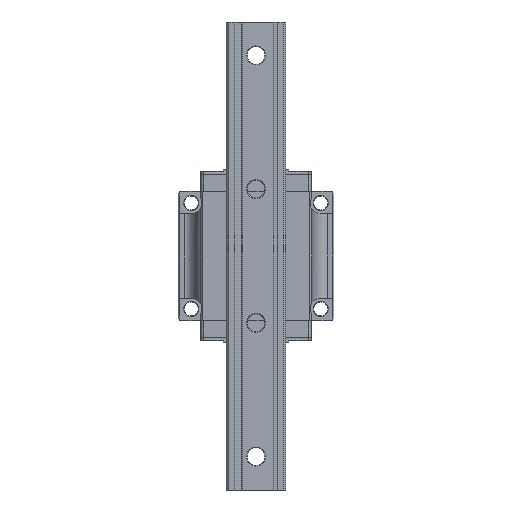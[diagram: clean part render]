
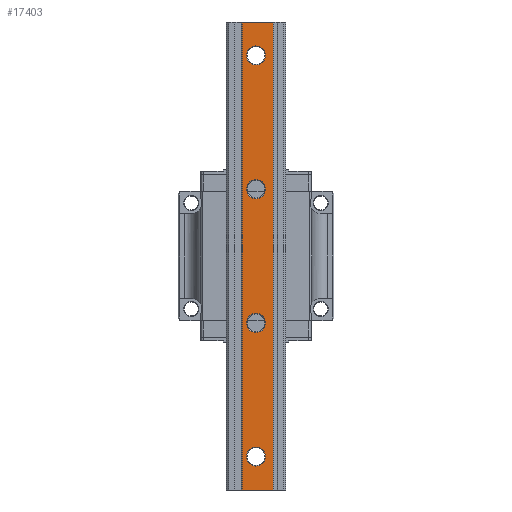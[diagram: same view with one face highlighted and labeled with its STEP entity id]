
A CAD part, front view. The second image highlights one B-rep face of the part: STEP entity #17403.
In plain terms, the highlighted planar face has unit normal (0, -1, 0).
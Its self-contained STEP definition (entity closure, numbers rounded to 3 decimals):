
#118 = CARTESIAN_POINT ( 'NONE',  ( 0., -38., -60. ) ) ;
#350 = LINE ( 'NONE', #11294, #13448 ) ;
#363 = AXIS2_PLACEMENT_3D ( 'NONE', #19927, #943, #7330 ) ;
#580 = CARTESIAN_POINT ( 'NONE',  ( 0., -38., -188.5 ) ) ;
#619 = CARTESIAN_POINT ( 'NONE',  ( 0., -38., 68.5 ) ) ;
#943 = DIRECTION ( 'NONE',  ( 0., 1., 0. ) ) ;
#1154 = FACE_BOUND ( 'NONE', #7789, .T. ) ;
#1313 = CARTESIAN_POINT ( 'NONE',  ( 15.5, -38., 210. ) ) ;
#1427 = CARTESIAN_POINT ( 'NONE',  ( -12.5, -38., -210. ) ) ;
#1584 = CARTESIAN_POINT ( 'NONE',  ( 0., -38., 51.5 ) ) ;
#1645 = AXIS2_PLACEMENT_3D ( 'NONE', #12241, #9356, #12664 ) ;
#1647 = FACE_BOUND ( 'NONE', #12370, .T. ) ;
#1792 = CARTESIAN_POINT ( 'NONE',  ( 15.5, -38., 210. ) ) ;
#2458 = VECTOR ( 'NONE', #3792, 1000. ) ;
#2964 = DIRECTION ( 'NONE',  ( 0., 0., 1. ) ) ;
#3783 = CIRCLE ( 'NONE', #13754, 8.5 ) ;
#3792 = DIRECTION ( 'NONE',  ( 1., 0., 0. ) ) ;
#3841 = CIRCLE ( 'NONE', #18144, 8.5 ) ;
#3908 = EDGE_CURVE ( 'NONE', #16467, #16677, #9459, .T. ) ;
#4021 = VERTEX_POINT ( 'NONE', #5179 ) ;
#4087 = DIRECTION ( 'NONE',  ( 0., 1., 0. ) ) ;
#4272 = ORIENTED_EDGE ( 'NONE', *, *, #14194, .T. ) ;
#4338 = ORIENTED_EDGE ( 'NONE', *, *, #19636, .T. ) ;
#4401 = VERTEX_POINT ( 'NONE', #10236 ) ;
#4439 = DIRECTION ( 'NONE',  ( 0., 0., 1. ) ) ;
#4541 = DIRECTION ( 'NONE',  ( 0., 1., 0. ) ) ;
#5179 = CARTESIAN_POINT ( 'NONE',  ( 0., -38., -51.5 ) ) ;
#5206 = ORIENTED_EDGE ( 'NONE', *, *, #7374, .T. ) ;
#5320 = CARTESIAN_POINT ( 'NONE',  ( 0., -38., -60. ) ) ;
#5480 = EDGE_CURVE ( 'NONE', #6593, #9186, #3783, .T. ) ;
#5567 = CIRCLE ( 'NONE', #12543, 8.5 ) ;
#5656 = ORIENTED_EDGE ( 'NONE', *, *, #3908, .F. ) ;
#5769 = FACE_OUTER_BOUND ( 'NONE', #7710, .T. ) ;
#5922 = CARTESIAN_POINT ( 'NONE',  ( 0., -38., -180. ) ) ;
#5993 = CARTESIAN_POINT ( 'NONE',  ( 0., -38., -68.5 ) ) ;
#6533 = CARTESIAN_POINT ( 'NONE',  ( 0., -38., 180. ) ) ;
#6593 = VERTEX_POINT ( 'NONE', #619 ) ;
#6640 = CIRCLE ( 'NONE', #1645, 8.5 ) ;
#6946 = ORIENTED_EDGE ( 'NONE', *, *, #10302, .T. ) ;
#7016 = CIRCLE ( 'NONE', #14980, 8.5 ) ;
#7330 = DIRECTION ( 'NONE',  ( 0., 0., 1. ) ) ;
#7374 = EDGE_CURVE ( 'NONE', #4401, #8319, #16727, .T. ) ;
#7405 = AXIS2_PLACEMENT_3D ( 'NONE', #5922, #9147, #15482 ) ;
#7636 = DIRECTION ( 'NONE',  ( 0., 0., 1. ) ) ;
#7710 = EDGE_LOOP ( 'NONE', ( #10969, #5656, #18474, #5206 ) ) ;
#7789 = EDGE_LOOP ( 'NONE', ( #12951, #7888 ) ) ;
#7888 = ORIENTED_EDGE ( 'NONE', *, *, #5480, .T. ) ;
#8029 = FACE_BOUND ( 'NONE', #12201, .T. ) ;
#8319 = VERTEX_POINT ( 'NONE', #1427 ) ;
#8549 = DIRECTION ( 'NONE',  ( 0., 0., 1. ) ) ;
#8646 = DIRECTION ( 'NONE',  ( 0., 1., 0. ) ) ;
#8676 = CARTESIAN_POINT ( 'NONE',  ( 15.5, -38., -210. ) ) ;
#8700 = CIRCLE ( 'NONE', #363, 8.5 ) ;
#8887 = CARTESIAN_POINT ( 'NONE',  ( 0., -38., 188.5 ) ) ;
#9147 = DIRECTION ( 'NONE',  ( 0., 1., 0. ) ) ;
#9156 = DIRECTION ( 'NONE',  ( 0., 0., -1. ) ) ;
#9186 = VERTEX_POINT ( 'NONE', #1584 ) ;
#9356 = DIRECTION ( 'NONE',  ( 0., 1., 0. ) ) ;
#9459 = LINE ( 'NONE', #1313, #10910 ) ;
#10236 = CARTESIAN_POINT ( 'NONE',  ( -12.5, -38., 210. ) ) ;
#10302 = EDGE_CURVE ( 'NONE', #17570, #13723, #16365, .T. ) ;
#10794 = CIRCLE ( 'NONE', #12104, 8.5 ) ;
#10910 = VECTOR ( 'NONE', #9156, 1000. ) ;
#10969 = ORIENTED_EDGE ( 'NONE', *, *, #15211, .T. ) ;
#11294 = CARTESIAN_POINT ( 'NONE',  ( -12.5, -38., 210. ) ) ;
#11521 = ORIENTED_EDGE ( 'NONE', *, *, #12916, .T. ) ;
#11561 = VECTOR ( 'NONE', #18086, 1000. ) ;
#11698 = LINE ( 'NONE', #18067, #2458 ) ;
#11842 = VERTEX_POINT ( 'NONE', #13783 ) ;
#12104 = AXIS2_PLACEMENT_3D ( 'NONE', #6533, #19238, #16098 ) ;
#12201 = EDGE_LOOP ( 'NONE', ( #11521, #4338 ) ) ;
#12241 = CARTESIAN_POINT ( 'NONE',  ( 0., -38., -180. ) ) ;
#12294 = PLANE ( 'NONE',  #13265 ) ;
#12370 = EDGE_LOOP ( 'NONE', ( #6946, #16209 ) ) ;
#12543 = AXIS2_PLACEMENT_3D ( 'NONE', #5320, #8646, #8549 ) ;
#12652 = DIRECTION ( 'NONE',  ( 1., 0., 0. ) ) ;
#12664 = DIRECTION ( 'NONE',  ( 0., 0., 1. ) ) ;
#12916 = EDGE_CURVE ( 'NONE', #11842, #17431, #10794, .T. ) ;
#12926 = ORIENTED_EDGE ( 'NONE', *, *, #15769, .T. ) ;
#12951 = ORIENTED_EDGE ( 'NONE', *, *, #19407, .T. ) ;
#13265 = AXIS2_PLACEMENT_3D ( 'NONE', #14349, #4087, #7636 ) ;
#13448 = VECTOR ( 'NONE', #12652, 1000. ) ;
#13723 = VERTEX_POINT ( 'NONE', #14515 ) ;
#13754 = AXIS2_PLACEMENT_3D ( 'NONE', #18816, #4541, #2964 ) ;
#13783 = CARTESIAN_POINT ( 'NONE',  ( 0., -38., 171.5 ) ) ;
#14084 = DIRECTION ( 'NONE',  ( 0., 1., 0. ) ) ;
#14194 = EDGE_CURVE ( 'NONE', #4021, #16423, #3841, .T. ) ;
#14349 = CARTESIAN_POINT ( 'NONE',  ( -12.5, -38., 210. ) ) ;
#14515 = CARTESIAN_POINT ( 'NONE',  ( 0., -38., -171.5 ) ) ;
#14980 = AXIS2_PLACEMENT_3D ( 'NONE', #17232, #18713, #4439 ) ;
#15018 = EDGE_CURVE ( 'NONE', #4401, #16467, #350, .T. ) ;
#15211 = EDGE_CURVE ( 'NONE', #8319, #16677, #11698, .T. ) ;
#15482 = DIRECTION ( 'NONE',  ( 0., 0., 1. ) ) ;
#15769 = EDGE_CURVE ( 'NONE', #16423, #4021, #5567, .T. ) ;
#15918 = FACE_BOUND ( 'NONE', #16838, .T. ) ;
#15957 = DIRECTION ( 'NONE',  ( 0., 0., 1. ) ) ;
#16098 = DIRECTION ( 'NONE',  ( 0., 0., 1. ) ) ;
#16209 = ORIENTED_EDGE ( 'NONE', *, *, #17802, .T. ) ;
#16365 = CIRCLE ( 'NONE', #7405, 8.5 ) ;
#16423 = VERTEX_POINT ( 'NONE', #5993 ) ;
#16467 = VERTEX_POINT ( 'NONE', #1792 ) ;
#16677 = VERTEX_POINT ( 'NONE', #8676 ) ;
#16727 = LINE ( 'NONE', #18187, #11561 ) ;
#16838 = EDGE_LOOP ( 'NONE', ( #12926, #4272 ) ) ;
#17232 = CARTESIAN_POINT ( 'NONE',  ( 0., -38., 60. ) ) ;
#17403 = ADVANCED_FACE ( 'NONE', ( #15918, #1647, #1154, #8029, #5769 ), #12294, .F. ) ;
#17431 = VERTEX_POINT ( 'NONE', #8887 ) ;
#17570 = VERTEX_POINT ( 'NONE', #580 ) ;
#17802 = EDGE_CURVE ( 'NONE', #13723, #17570, #6640, .T. ) ;
#18067 = CARTESIAN_POINT ( 'NONE',  ( -12.5, -38., -210. ) ) ;
#18086 = DIRECTION ( 'NONE',  ( 0., 0., -1. ) ) ;
#18144 = AXIS2_PLACEMENT_3D ( 'NONE', #118, #14084, #15957 ) ;
#18187 = CARTESIAN_POINT ( 'NONE',  ( -12.5, -38., 210. ) ) ;
#18474 = ORIENTED_EDGE ( 'NONE', *, *, #15018, .F. ) ;
#18713 = DIRECTION ( 'NONE',  ( 0., 1., 0. ) ) ;
#18816 = CARTESIAN_POINT ( 'NONE',  ( 0., -38., 60. ) ) ;
#19238 = DIRECTION ( 'NONE',  ( 0., 1., 0. ) ) ;
#19407 = EDGE_CURVE ( 'NONE', #9186, #6593, #7016, .T. ) ;
#19636 = EDGE_CURVE ( 'NONE', #17431, #11842, #8700, .T. ) ;
#19927 = CARTESIAN_POINT ( 'NONE',  ( 0., -38., 180. ) ) ;
